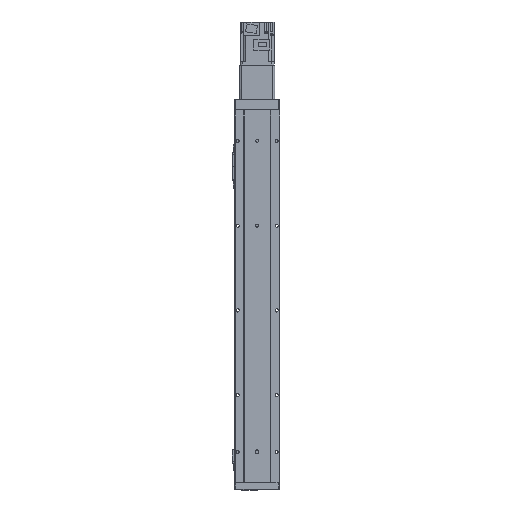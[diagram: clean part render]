
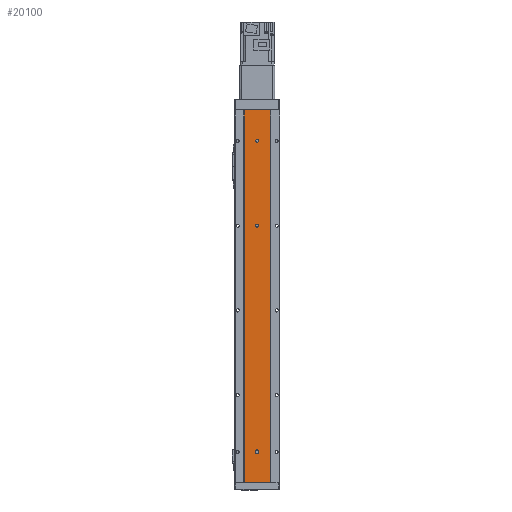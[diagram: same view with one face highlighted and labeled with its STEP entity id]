
A CAD part, front view. The second image highlights one B-rep face of the part: STEP entity #20100.
In plain terms, the highlighted planar face has unit normal (0, -1, 0).
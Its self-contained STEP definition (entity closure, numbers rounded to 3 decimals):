
#2169 = DIRECTION ( 'NONE',  ( 0., -1., 0. ) ) ;
#2175 = DIRECTION ( 'NONE',  ( 1., 0., 0. ) ) ;
#2180 = CARTESIAN_POINT ( 'NONE',  ( 0., 0.5, -54.5 ) ) ;
#6989 = EDGE_LOOP ( 'NONE', ( #20437, #20475 ) ) ;
#6995 = EDGE_LOOP ( 'NONE', ( #20460, #20381, #20368, #20462 ) ) ;
#7073 = EDGE_LOOP ( 'NONE', ( #20457, #20441, #20456, #20435, #20450 ) ) ;
#7123 = EDGE_LOOP ( 'NONE', ( #20454, #20369 ) ) ;
#7920 = CARTESIAN_POINT ( 'NONE',  ( 0., 0.5, -202. ) ) ;
#7942 = CARTESIAN_POINT ( 'NONE',  ( 0., 0.5, -52. ) ) ;
#7957 = CARTESIAN_POINT ( 'NONE',  ( 0., 0.5, -57. ) ) ;
#7967 = CARTESIAN_POINT ( 'NONE',  ( 0., 0.5, -207. ) ) ;
#7968 = CARTESIAN_POINT ( 'NONE',  ( 0., 0.5, -608. ) ) ;
#8825 = DIRECTION ( 'NONE',  ( 1., 0., 0. ) ) ;
#8839 = CARTESIAN_POINT ( 'NONE',  ( 0., 0.5, -605.5 ) ) ;
#8849 = DIRECTION ( 'NONE',  ( 0., -1., 0. ) ) ;
#8927 = CARTESIAN_POINT ( 'NONE',  ( 0., 0.5, -204.5 ) ) ;
#8939 = DIRECTION ( 'NONE',  ( 0., -1., 0. ) ) ;
#8948 = DIRECTION ( 'NONE',  ( 1., 0., 0. ) ) ;
#9102 = DIRECTION ( 'NONE',  ( 0., -1., 0. ) ) ;
#9132 = CARTESIAN_POINT ( 'NONE',  ( 0., 0.5, -54.5 ) ) ;
#9133 = DIRECTION ( 'NONE',  ( 1., 0., 0. ) ) ;
#9760 = CIRCLE ( 'NONE', #41587, 2.5 ) ;
#9979 = VECTOR ( 'NONE', #12390, 1000. ) ;
#9994 = LINE ( 'NONE', #12453, #10022 ) ;
#10004 = LINE ( 'NONE', #12388, #9979 ) ;
#10022 = VECTOR ( 'NONE', #12435, 1000. ) ;
#10215 = LINE ( 'NONE', #13152, #10217 ) ;
#10217 = VECTOR ( 'NONE', #13101, 1000. ) ;
#10225 = LINE ( 'NONE', #13131, #10226 ) ;
#10226 = VECTOR ( 'NONE', #13132, 1000. ) ;
#10235 = CIRCLE ( 'NONE', #41744, 2.5 ) ;
#10243 = CIRCLE ( 'NONE', #41765, 2.5 ) ;
#10472 = CIRCLE ( 'NONE', #41818, 2.5 ) ;
#10478 = VECTOR ( 'NONE', #12062, 1000. ) ;
#10487 = VECTOR ( 'NONE', #12694, 1000. ) ;
#10505 = LINE ( 'NONE', #12054, #10478 ) ;
#10510 = LINE ( 'NONE', #12050, #10487 ) ;
#10562 = CIRCLE ( 'NONE', #41803, 2.5 ) ;
#12035 = CARTESIAN_POINT ( 'NONE',  ( 0., 0.5, -204.5 ) ) ;
#12041 = DIRECTION ( 'NONE',  ( 1., 0., 0. ) ) ;
#12045 = DIRECTION ( 'NONE',  ( 0., -1., 0. ) ) ;
#12050 = CARTESIAN_POINT ( 'NONE',  ( 2.5, 0.5, -659. ) ) ;
#12054 = CARTESIAN_POINT ( 'NONE',  ( -23., 0.5, -659. ) ) ;
#12062 = DIRECTION ( 'NONE',  ( 0., 0., 1. ) ) ;
#12388 = CARTESIAN_POINT ( 'NONE',  ( -23., 0.5, -659. ) ) ;
#12390 = DIRECTION ( 'NONE',  ( 1., 0., 0. ) ) ;
#12435 = DIRECTION ( 'NONE',  ( 1., 0., 0. ) ) ;
#12453 = CARTESIAN_POINT ( 'NONE',  ( -23., 0.5, 0. ) ) ;
#12694 = DIRECTION ( 'NONE',  ( 0., 0., 1. ) ) ;
#13055 = CARTESIAN_POINT ( 'NONE',  ( 0., 0.5, -603.5 ) ) ;
#13067 = DIRECTION ( 'NONE',  ( 1., 0., 0. ) ) ;
#13073 = DIRECTION ( 'NONE',  ( 0., -1., 0. ) ) ;
#13091 = DIRECTION ( 'NONE',  ( 0., -1., 0. ) ) ;
#13101 = DIRECTION ( 'NONE',  ( 0., 0., -1. ) ) ;
#13113 = CARTESIAN_POINT ( 'NONE',  ( 0., 0.5, -605.5 ) ) ;
#13115 = DIRECTION ( 'NONE',  ( 1., 0., 0. ) ) ;
#13131 = CARTESIAN_POINT ( 'NONE',  ( 23., 0.5, -659. ) ) ;
#13132 = DIRECTION ( 'NONE',  ( 0., 0., 1. ) ) ;
#13152 = CARTESIAN_POINT ( 'NONE',  ( -2.5, 0.5, -659. ) ) ;
#14125 = CARTESIAN_POINT ( 'NONE',  ( -23., 0.5, -659. ) ) ;
#14127 = CARTESIAN_POINT ( 'NONE',  ( 23., 0.5, 0. ) ) ;
#14135 = CARTESIAN_POINT ( 'NONE',  ( 23., 0.5, -659. ) ) ;
#14167 = CARTESIAN_POINT ( 'NONE',  ( -23., 0.5, 0. ) ) ;
#14530 = CARTESIAN_POINT ( 'NONE',  ( -2.5, 0.5, -603.5 ) ) ;
#14546 = CARTESIAN_POINT ( 'NONE',  ( -2.5, 0.5, -605.5 ) ) ;
#14554 = CARTESIAN_POINT ( 'NONE',  ( 2.5, 0.5, -603.5 ) ) ;
#15242 = VERTEX_POINT ( 'NONE', #39310 ) ;
#20100 = ADVANCED_FACE ( 'NONE', ( #39615, #39584, #39637, #39607 ), #42988, .T. ) ;
#20368 = ORIENTED_EDGE ( 'NONE', *, *, #30641, .T. ) ;
#20369 = ORIENTED_EDGE ( 'NONE', *, *, #30461, .F. ) ;
#20381 = ORIENTED_EDGE ( 'NONE', *, *, #30941, .F. ) ;
#20435 = ORIENTED_EDGE ( 'NONE', *, *, #30951, .F. ) ;
#20437 = ORIENTED_EDGE ( 'NONE', *, *, #30948, .F. ) ;
#20441 = ORIENTED_EDGE ( 'NONE', *, *, #30788, .F. ) ;
#20450 = ORIENTED_EDGE ( 'NONE', *, *, #30349, .F. ) ;
#20454 = ORIENTED_EDGE ( 'NONE', *, *, #30958, .F. ) ;
#20456 = ORIENTED_EDGE ( 'NONE', *, *, #30779, .F. ) ;
#20457 = ORIENTED_EDGE ( 'NONE', *, *, #30795, .F. ) ;
#20460 = ORIENTED_EDGE ( 'NONE', *, *, #30635, .F. ) ;
#20462 = ORIENTED_EDGE ( 'NONE', *, *, #30793, .T. ) ;
#20475 = ORIENTED_EDGE ( 'NONE', *, *, #30391, .F. ) ;
#30021 = VERTEX_POINT ( 'NONE', #7942 ) ;
#30028 = VERTEX_POINT ( 'NONE', #7957 ) ;
#30038 = VERTEX_POINT ( 'NONE', #7920 ) ;
#30078 = VERTEX_POINT ( 'NONE', #7968 ) ;
#30080 = VERTEX_POINT ( 'NONE', #7967 ) ;
#30349 = EDGE_CURVE ( 'NONE', #30078, #15242, #45715, .T. ) ;
#30391 = EDGE_CURVE ( 'NONE', #30038, #30080, #44655, .T. ) ;
#30461 = EDGE_CURVE ( 'NONE', #30021, #30028, #9760, .T. ) ;
#30635 = EDGE_CURVE ( 'NONE', #34865, #34860, #9994, .T. ) ;
#30641 = EDGE_CURVE ( 'NONE', #34849, #34872, #10004, .T. ) ;
#30779 = EDGE_CURVE ( 'NONE', #35336, #35298, #10243, .T. ) ;
#30788 = EDGE_CURVE ( 'NONE', #35298, #35337, #10215, .T. ) ;
#30793 = EDGE_CURVE ( 'NONE', #34872, #34860, #10225, .T. ) ;
#30795 = EDGE_CURVE ( 'NONE', #35337, #30078, #10235, .T. ) ;
#30941 = EDGE_CURVE ( 'NONE', #34849, #34865, #10505, .T. ) ;
#30948 = EDGE_CURVE ( 'NONE', #30080, #30038, #10472, .T. ) ;
#30951 = EDGE_CURVE ( 'NONE', #15242, #35336, #10510, .T. ) ;
#30958 = EDGE_CURVE ( 'NONE', #30028, #30021, #10562, .T. ) ;
#34849 = VERTEX_POINT ( 'NONE', #14125 ) ;
#34860 = VERTEX_POINT ( 'NONE', #14127 ) ;
#34865 = VERTEX_POINT ( 'NONE', #14167 ) ;
#34872 = VERTEX_POINT ( 'NONE', #14135 ) ;
#35298 = VERTEX_POINT ( 'NONE', #14530 ) ;
#35336 = VERTEX_POINT ( 'NONE', #14554 ) ;
#35337 = VERTEX_POINT ( 'NONE', #14546 ) ;
#39310 = CARTESIAN_POINT ( 'NONE',  ( 2.5, 0.5, -605.5 ) ) ;
#39584 = FACE_BOUND ( 'NONE', #6989, .T. ) ;
#39607 = FACE_OUTER_BOUND ( 'NONE', #6995, .T. ) ;
#39615 = FACE_BOUND ( 'NONE', #7073, .T. ) ;
#39637 = FACE_BOUND ( 'NONE', #7123, .T. ) ;
#41128 = AXIS2_PLACEMENT_3D ( 'NONE', #42998, #43010, #43170 ) ;
#41472 = AXIS2_PLACEMENT_3D ( 'NONE', #8839, #8849, #8825 ) ;
#41579 = AXIS2_PLACEMENT_3D ( 'NONE', #8927, #8939, #8948 ) ;
#41587 = AXIS2_PLACEMENT_3D ( 'NONE', #9132, #9102, #9133 ) ;
#41744 = AXIS2_PLACEMENT_3D ( 'NONE', #13113, #13091, #13115 ) ;
#41765 = AXIS2_PLACEMENT_3D ( 'NONE', #13055, #13073, #13067 ) ;
#41803 = AXIS2_PLACEMENT_3D ( 'NONE', #2180, #2169, #2175 ) ;
#41818 = AXIS2_PLACEMENT_3D ( 'NONE', #12035, #12045, #12041 ) ;
#42988 = PLANE ( 'NONE',  #41128 ) ;
#42998 = CARTESIAN_POINT ( 'NONE',  ( -23., 0.5, -659. ) ) ;
#43010 = DIRECTION ( 'NONE',  ( 0., -1., 0. ) ) ;
#43170 = DIRECTION ( 'NONE',  ( 1., 0., 0. ) ) ;
#44655 = CIRCLE ( 'NONE', #41579, 2.5 ) ;
#45715 = CIRCLE ( 'NONE', #41472, 2.5 ) ;
